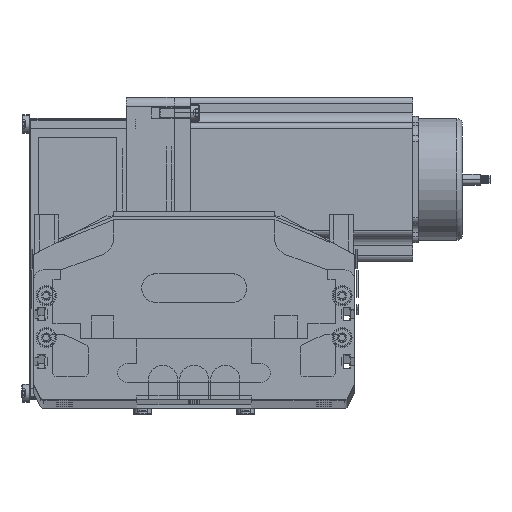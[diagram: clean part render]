
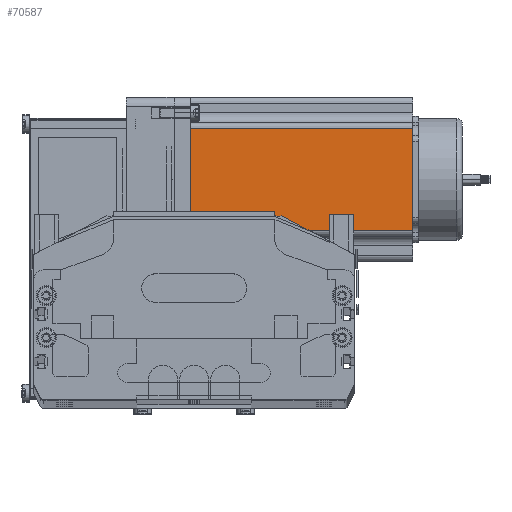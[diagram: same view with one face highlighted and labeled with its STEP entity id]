
A CAD part, top view. The second image highlights one B-rep face of the part: STEP entity #70587.
In plain terms, the highlighted planar face has unit normal (0, 0, 1) as drawn and (0, -1, 0) by its records, which use the part's own axes.
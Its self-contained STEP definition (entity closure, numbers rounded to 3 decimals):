
#32454 = CARTESIAN_POINT ( 'NONE',  ( 16.16, 0., 116.5 ) ) ;
#32470 = LINE ( 'NONE', #32493, #32492 ) ;
#32484 = DIRECTION ( 'NONE',  ( 0., 0., -1. ) ) ;
#32485 = VECTOR ( 'NONE', #32484, 1000. ) ;
#32486 = CARTESIAN_POINT ( 'NONE',  ( 16.16, 0., 116.5 ) ) ;
#32487 = LINE ( 'NONE', #32486, #32485 ) ;
#32491 = DIRECTION ( 'NONE',  ( 1., 0., 0. ) ) ;
#32492 = VECTOR ( 'NONE', #32491, 1000. ) ;
#32493 = CARTESIAN_POINT ( 'NONE',  ( 0., 0., 116.5 ) ) ;
#32497 = CARTESIAN_POINT ( 'NONE',  ( 16.16, 0., 0. ) ) ;
#61274 = VERTEX_POINT ( 'NONE', #32454 ) ;
#61277 = ORIENTED_EDGE ( 'NONE', *, *, #70591, .T. ) ;
#61278 = EDGE_CURVE ( 'NONE', #61274, #70592, #32470, .T. ) ;
#61279 = ORIENTED_EDGE ( 'NONE', *, *, #61278, .F. ) ;
#61281 = EDGE_CURVE ( 'NONE', #61274, #61287, #32487, .T. ) ;
#61284 = ORIENTED_EDGE ( 'NONE', *, *, #61281, .T. ) ;
#61287 = VERTEX_POINT ( 'NONE', #32497 ) ;
#61914 = CARTESIAN_POINT ( 'NONE',  ( 0., 0., 0. ) ) ;
#61915 = LINE ( 'NONE', #61914, #61922 ) ;
#61922 = VECTOR ( 'NONE', #61924, 1000. ) ;
#61924 = DIRECTION ( 'NONE',  ( 1., 0., 0. ) ) ;
#63922 = CARTESIAN_POINT ( 'NONE',  ( 69.74, 0., 116.5 ) ) ;
#63923 = LINE ( 'NONE', #63922, #63994 ) ;
#63929 = CARTESIAN_POINT ( 'NONE',  ( 69.74, 0., 0. ) ) ;
#63937 = FACE_OUTER_BOUND ( 'NONE', #70780, .T. ) ;
#63938 = PLANE ( 'NONE',  #63955 ) ;
#63945 = CARTESIAN_POINT ( 'NONE',  ( 69.74, 0., 116.5 ) ) ;
#63954 = CARTESIAN_POINT ( 'NONE',  ( 0., 0., 116.5 ) ) ;
#63955 = AXIS2_PLACEMENT_3D ( 'NONE', #63954, #63997, #63996 ) ;
#63993 = DIRECTION ( 'NONE',  ( 0., 0., 1. ) ) ;
#63994 = VECTOR ( 'NONE', #63993, 1000. ) ;
#63996 = DIRECTION ( 'NONE',  ( 0., 0., 1. ) ) ;
#63997 = DIRECTION ( 'NONE',  ( 0., 1., 0. ) ) ;
#67565 = EDGE_CURVE ( 'NONE', #61287, #70588, #61915, .T. ) ;
#70587 = ADVANCED_FACE ( 'NONE', ( #63937 ), #63938, .F. ) ;
#70588 = VERTEX_POINT ( 'NONE', #63929 ) ;
#70589 = ORIENTED_EDGE ( 'NONE', *, *, #67565, .T. ) ;
#70591 = EDGE_CURVE ( 'NONE', #70588, #70592, #63923, .T. ) ;
#70592 = VERTEX_POINT ( 'NONE', #63945 ) ;
#70780 = EDGE_LOOP ( 'NONE', ( #70589, #61277, #61279, #61284 ) ) ;
